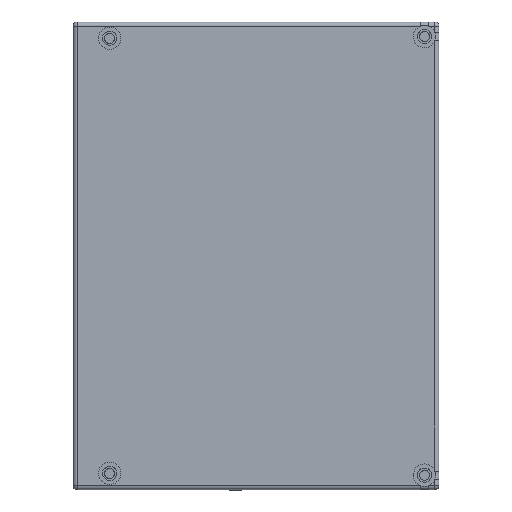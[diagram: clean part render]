
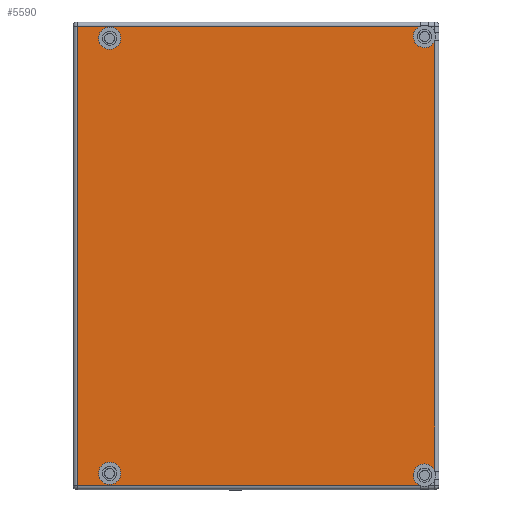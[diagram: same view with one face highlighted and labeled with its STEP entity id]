
A CAD part, top view. The second image highlights one B-rep face of the part: STEP entity #5590.
In plain terms, the highlighted planar face has unit normal (0, 0, 1).
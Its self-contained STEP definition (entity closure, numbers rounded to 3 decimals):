
#255=CIRCLE('',#5958,2.75);
#256=CIRCLE('',#5959,2.75);
#257=CIRCLE('',#5960,2.75);
#258=CIRCLE('',#5961,2.75);
#1133=ORIENTED_EDGE('',*,*,#1841,.T.);
#1134=ORIENTED_EDGE('',*,*,#1842,.T.);
#1135=ORIENTED_EDGE('',*,*,#1843,.T.);
#1136=ORIENTED_EDGE('',*,*,#1844,.T.);
#1137=ORIENTED_EDGE('',*,*,#1845,.T.);
#1138=ORIENTED_EDGE('',*,*,#1846,.T.);
#1139=ORIENTED_EDGE('',*,*,#1847,.T.);
#1140=ORIENTED_EDGE('',*,*,#1848,.T.);
#1841=EDGE_CURVE('',#2279,#2279,#255,.T.);
#1842=EDGE_CURVE('',#2280,#2280,#256,.T.);
#1843=EDGE_CURVE('',#2281,#2282,#257,.T.);
#1844=EDGE_CURVE('',#2282,#2283,#2671,.T.);
#1845=EDGE_CURVE('',#2283,#2284,#2672,.T.);
#1846=EDGE_CURVE('',#2284,#2285,#2673,.T.);
#1847=EDGE_CURVE('',#2285,#2286,#258,.T.);
#1848=EDGE_CURVE('',#2286,#2281,#2674,.T.);
#2279=VERTEX_POINT('',#9203);
#2280=VERTEX_POINT('',#9205);
#2281=VERTEX_POINT('',#9207);
#2282=VERTEX_POINT('',#9208);
#2283=VERTEX_POINT('',#9210);
#2284=VERTEX_POINT('',#9212);
#2285=VERTEX_POINT('',#9214);
#2286=VERTEX_POINT('',#9216);
#2671=LINE('',#9209,#3057);
#2672=LINE('',#9211,#3058);
#2673=LINE('',#9213,#3059);
#2674=LINE('',#9217,#3060);
#3057=VECTOR('',#6954,1000.);
#3058=VECTOR('',#6955,1000.);
#3059=VECTOR('',#6956,1000.);
#3060=VECTOR('',#6959,1000.);
#3425=EDGE_LOOP('',(#1133));
#3426=EDGE_LOOP('',(#1134));
#3427=EDGE_LOOP('',(#1135,#1136,#1137,#1138,#1139,#1140));
#3785=FACE_BOUND('',#3425,.T.);
#3786=FACE_BOUND('',#3426,.T.);
#3787=FACE_BOUND('',#3427,.T.);
#3995=PLANE('',#5957);
#5590=ADVANCED_FACE('',(#3785,#3786,#3787),#3995,.T.);
#5957=AXIS2_PLACEMENT_3D('',#9201,#6946,#6947);
#5958=AXIS2_PLACEMENT_3D('',#9202,#6948,#6949);
#5959=AXIS2_PLACEMENT_3D('',#9204,#6950,#6951);
#5960=AXIS2_PLACEMENT_3D('',#9206,#6952,#6953);
#5961=AXIS2_PLACEMENT_3D('',#9215,#6957,#6958);
#6946=DIRECTION('',(0.,0.,1.));
#6947=DIRECTION('',(1.,0.,0.));
#6948=DIRECTION('',(0.,0.,-1.));
#6949=DIRECTION('',(0.,-1.,0.));
#6950=DIRECTION('',(0.,0.,-1.));
#6951=DIRECTION('',(0.,-1.,0.));
#6952=DIRECTION('',(0.,0.,-1.));
#6953=DIRECTION('',(0.,-1.,0.));
#6954=DIRECTION('',(1.,0.,0.));
#6955=DIRECTION('',(0.,1.,0.));
#6956=DIRECTION('',(-1.,0.,0.));
#6957=DIRECTION('',(0.,0.,-1.));
#6958=DIRECTION('',(0.,-1.,0.));
#6959=DIRECTION('',(0.,-1.,0.));
#9201=CARTESIAN_POINT('',(0.,0.,0.));
#9202=CARTESIAN_POINT('',(36.,53.5,0.));
#9203=CARTESIAN_POINT('',(36.,50.75,0.));
#9204=CARTESIAN_POINT('',(36.,-53.5,0.));
#9205=CARTESIAN_POINT('',(36.,-56.25,0.));
#9206=CARTESIAN_POINT('',(-41.439,-53.939,0.));
#9207=CARTESIAN_POINT('',(-44.,-52.937,0.));
#9208=CARTESIAN_POINT('',(-40.437,-56.5,0.));
#9209=CARTESIAN_POINT('',(0.,-56.5,0.));
#9210=CARTESIAN_POINT('',(44.,-56.5,0.));
#9211=CARTESIAN_POINT('',(44.,0.,0.));
#9212=CARTESIAN_POINT('',(44.,56.5,0.));
#9213=CARTESIAN_POINT('',(0.,56.5,0.));
#9214=CARTESIAN_POINT('',(-40.437,56.5,0.));
#9215=CARTESIAN_POINT('',(-41.439,53.939,0.));
#9216=CARTESIAN_POINT('',(-44.,52.936,0.));
#9217=CARTESIAN_POINT('',(-44.,0.,0.));
